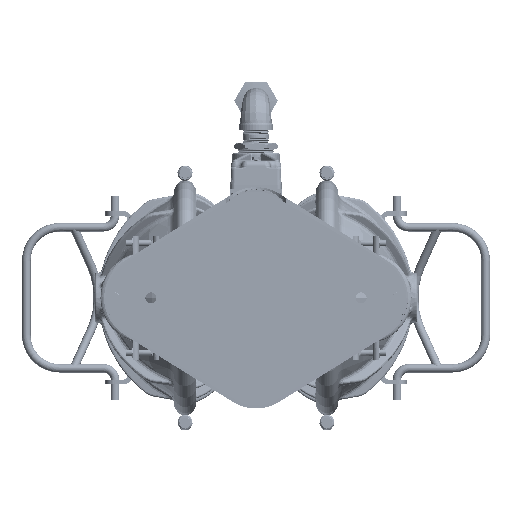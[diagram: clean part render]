
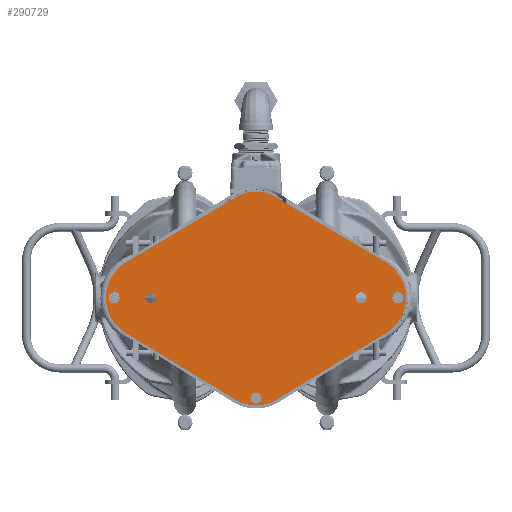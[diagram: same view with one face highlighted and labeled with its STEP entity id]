
A CAD part, front view. The second image highlights one B-rep face of the part: STEP entity #290729.
In plain terms, the highlighted planar face has unit normal (0, -1, 0).
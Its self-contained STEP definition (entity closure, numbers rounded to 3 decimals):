
#99927=CARTESIAN_POINT('',(5.595,-13.027,0.));
#99928=DIRECTION('',(0.,1.,0.));
#99929=DIRECTION('',(0.51,0.,0.86));
#99930=AXIS2_PLACEMENT_3D('',#99927,#99928,#99929);
#99932=DIRECTION('',(0.856,0.,0.518));
#99933=VECTOR('',#99932,6.615);
#99934=CARTESIAN_POINT('',(1.035,-13.027,
-5.242));
#99935=LINE('',#99934,#99933);
#99936=CARTESIAN_POINT('',(0.,-13.027,-3.531));
#99937=DIRECTION('',(0.,1.,0.));
#99938=DIRECTION('',(0.518,0.,-0.856));
#99939=AXIS2_PLACEMENT_3D('',#99936,#99937,#99938);
#99941=DIRECTION('',(0.856,0.,-0.518));
#99942=VECTOR('',#99941,6.615);
#99943=CARTESIAN_POINT('',(-6.695,-13.027,
-1.818));
#99944=LINE('',#99943,#99942);
#99945=CARTESIAN_POINT('',(-5.595,-13.027,0.));
#99946=DIRECTION('',(0.,1.,0.));
#99947=DIRECTION('',(-0.518,0.,-0.856));
#99948=AXIS2_PLACEMENT_3D('',#99945,#99946,#99947);
#99950=DIRECTION('',(-0.86,0.,-0.51));
#99951=VECTOR('',#99950,6.614);
#99952=CARTESIAN_POINT('',(-0.987,-13.027,
5.198));
#99953=LINE('',#99952,#99951);
#99954=CARTESIAN_POINT('',(0.,-13.027,3.531));
#99955=DIRECTION('',(0.,1.,0.));
#99956=DIRECTION('',(-0.51,0.,0.86));
#99957=AXIS2_PLACEMENT_3D('',#99954,#99955,#99956);
#99959=DIRECTION('',(-0.86,0.,0.51));
#99960=VECTOR('',#99959,6.614);
#99961=CARTESIAN_POINT('',(6.678,-13.027,
1.828));
#99962=LINE('',#99961,#99960);
#99963=CARTESIAN_POINT('',(-7.295,-13.027,0.));
#99964=DIRECTION('',(0.,1.,0.));
#99965=DIRECTION('',(1.,0.,0.));
#99966=AXIS2_PLACEMENT_3D('',#99963,#99964,#99965);
#99968=CARTESIAN_POINT('',(-7.295,-13.027,0.));
#99969=DIRECTION('',(0.,1.,0.));
#99970=DIRECTION('',(-1.,0.,0.));
#99971=AXIS2_PLACEMENT_3D('',#99968,#99969,#99970);
#99973=CARTESIAN_POINT('',(7.295,-13.027,0.));
#99974=DIRECTION('',(0.,1.,0.));
#99975=DIRECTION('',(1.,0.,0.));
#99976=AXIS2_PLACEMENT_3D('',#99973,#99974,#99975);
#99978=CARTESIAN_POINT('',(7.295,-13.027,0.));
#99979=DIRECTION('',(0.,1.,0.));
#99980=DIRECTION('',(-1.,0.,0.));
#99981=AXIS2_PLACEMENT_3D('',#99978,#99979,#99980);
#99983=CARTESIAN_POINT('',(0.,-13.027,-5.157));
#99984=DIRECTION('',(0.,1.,0.));
#99985=DIRECTION('',(1.,0.,0.));
#99986=AXIS2_PLACEMENT_3D('',#99983,#99984,#99985);
#99988=CARTESIAN_POINT('',(0.,-13.027,-5.157));
#99989=DIRECTION('',(0.,1.,0.));
#99990=DIRECTION('',(-1.,0.,0.));
#99991=AXIS2_PLACEMENT_3D('',#99988,#99989,#99990);
#99993=CARTESIAN_POINT('',(-5.405,-13.027,0.));
#99994=DIRECTION('',(0.,-1.,0.));
#99995=DIRECTION('',(1.,0.,0.));
#99996=AXIS2_PLACEMENT_3D('',#99993,#99994,#99995);
#99998=CARTESIAN_POINT('',(-5.405,-13.027,0.));
#99999=DIRECTION('',(0.,-1.,0.));
#100000=DIRECTION('',(-1.,0.,0.));
#100001=AXIS2_PLACEMENT_3D('',#99998,#99999,#100000);
#100003=CARTESIAN_POINT('',(5.405,-13.027,0.));
#100004=DIRECTION('',(0.,-1.,0.));
#100005=DIRECTION('',(1.,0.,0.));
#100006=AXIS2_PLACEMENT_3D('',#100003,#100004,#100005);
#100008=CARTESIAN_POINT('',(5.405,-13.027,0.));
#100009=DIRECTION('',(0.,-1.,0.));
#100010=DIRECTION('',(-1.,0.,0.));
#100011=AXIS2_PLACEMENT_3D('',#100008,#100009,#100010);
#216922=CARTESIAN_POINT('',(6.678,-13.027,
1.828));
#216924=VERTEX_POINT('',#216922);
#216926=CARTESIAN_POINT('',(6.695,-13.027,
-1.818));
#216928=VERTEX_POINT('',#216926);
#216930=CARTESIAN_POINT('',(-6.695,-13.027,
-1.818));
#216932=VERTEX_POINT('',#216930);
#216934=CARTESIAN_POINT('',(-6.678,-13.027,
1.828));
#216936=VERTEX_POINT('',#216934);
#216938=CARTESIAN_POINT('',(-0.987,-13.027,
5.198));
#216940=VERTEX_POINT('',#216938);
#216942=CARTESIAN_POINT('',(0.987,-13.027,
5.198));
#216944=VERTEX_POINT('',#216942);
#216946=CARTESIAN_POINT('',(1.035,-13.027,
-5.242));
#216948=VERTEX_POINT('',#216946);
#216951=CARTESIAN_POINT('',(-1.035,-13.027,
-5.242));
#216953=VERTEX_POINT('',#216951);
#218559=CARTESIAN_POINT('',(-7.01,-13.027,0.));
#218560=CARTESIAN_POINT('',(-7.58,-13.027,0.));
#218561=VERTEX_POINT('',#218559);
#218562=VERTEX_POINT('',#218560);
#218567=CARTESIAN_POINT('',(7.58,-13.027,0.));
#218568=CARTESIAN_POINT('',(7.01,-13.027,0.));
#218569=VERTEX_POINT('',#218567);
#218570=VERTEX_POINT('',#218568);
#218575=CARTESIAN_POINT('',(0.285,-13.027,-5.157));
#218576=CARTESIAN_POINT('',(-0.285,-13.027,-5.157));
#218577=VERTEX_POINT('',#218575);
#218578=VERTEX_POINT('',#218576);
#218583=CARTESIAN_POINT('',(-5.124,-13.027,0.));
#218584=CARTESIAN_POINT('',(-5.686,-13.027,0.));
#218585=VERTEX_POINT('',#218583);
#218586=VERTEX_POINT('',#218584);
#218591=CARTESIAN_POINT('',(5.686,-13.027,0.));
#218592=CARTESIAN_POINT('',(5.124,-13.027,0.));
#218593=VERTEX_POINT('',#218591);
#218594=VERTEX_POINT('',#218592);
#290678=CARTESIAN_POINT('',(0.,-13.027,0.));
#290679=DIRECTION('',(0.,1.,0.));
#290680=DIRECTION('',(1.,0.,0.));
#290681=AXIS2_PLACEMENT_3D('',#290678,#290679,#290680);
#290682=PLANE('',#290681);
#290683=ORIENTED_EDGE('',*,*,#289360,.T.);
#290685=ORIENTED_EDGE('',*,*,#290684,.F.);
#290687=ORIENTED_EDGE('',*,*,#290686,.T.);
#290689=ORIENTED_EDGE('',*,*,#290688,.F.);
#290691=ORIENTED_EDGE('',*,*,#290690,.T.);
#290693=ORIENTED_EDGE('',*,*,#290692,.F.);
#290695=ORIENTED_EDGE('',*,*,#290694,.T.);
#290696=ORIENTED_EDGE('',*,*,#290635,.F.);
#290697=EDGE_LOOP('',(#290683,#290685,#290687,#290689,#290691,#290693,#290695,
#290696));
#290698=FACE_OUTER_BOUND('',#290697,.F.);
#290700=ORIENTED_EDGE('',*,*,#290699,.F.);
#290702=ORIENTED_EDGE('',*,*,#290701,.F.);
#290703=EDGE_LOOP('',(#290700,#290702));
#290704=FACE_BOUND('',#290703,.F.);
#290706=ORIENTED_EDGE('',*,*,#290705,.F.);
#290708=ORIENTED_EDGE('',*,*,#290707,.F.);
#290709=EDGE_LOOP('',(#290706,#290708));
#290710=FACE_BOUND('',#290709,.F.);
#290712=ORIENTED_EDGE('',*,*,#290711,.F.);
#290714=ORIENTED_EDGE('',*,*,#290713,.F.);
#290715=EDGE_LOOP('',(#290712,#290714));
#290716=FACE_BOUND('',#290715,.F.);
#290718=ORIENTED_EDGE('',*,*,#290717,.T.);
#290720=ORIENTED_EDGE('',*,*,#290719,.T.);
#290721=EDGE_LOOP('',(#290718,#290720));
#290722=FACE_BOUND('',#290721,.F.);
#290724=ORIENTED_EDGE('',*,*,#290723,.T.);
#290726=ORIENTED_EDGE('',*,*,#290725,.T.);
#290727=EDGE_LOOP('',(#290724,#290726));
#290728=FACE_BOUND('',#290727,.F.);
#290729=ADVANCED_FACE('',(#290698,#290704,#290710,#290716,#290722,#290728),
#290682,.F.);
#99931=CIRCLE('',#99930,2.125);
#99940=CIRCLE('',#99939,2.);
#99949=CIRCLE('',#99948,2.125);
#99958=CIRCLE('',#99957,1.938);
#99967=CIRCLE('',#99966,0.285);
#99972=CIRCLE('',#99971,0.285);
#99977=CIRCLE('',#99976,0.285);
#99982=CIRCLE('',#99981,0.285);
#99987=CIRCLE('',#99986,0.285);
#99992=CIRCLE('',#99991,0.285);
#99997=CIRCLE('',#99996,0.281);
#100002=CIRCLE('',#100001,0.281);
#100007=CIRCLE('',#100006,0.281);
#100012=CIRCLE('',#100011,0.281);
#289360=EDGE_CURVE('',#216924,#216928,#99931,.T.);
#290635=EDGE_CURVE('',#216924,#216944,#99962,.T.);
#290684=EDGE_CURVE('',#216948,#216928,#99935,.T.);
#290686=EDGE_CURVE('',#216948,#216953,#99940,.T.);
#290688=EDGE_CURVE('',#216932,#216953,#99944,.T.);
#290690=EDGE_CURVE('',#216932,#216936,#99949,.T.);
#290692=EDGE_CURVE('',#216940,#216936,#99953,.T.);
#290694=EDGE_CURVE('',#216940,#216944,#99958,.T.);
#290699=EDGE_CURVE('',#218561,#218562,#99967,.T.);
#290701=EDGE_CURVE('',#218562,#218561,#99972,.T.);
#290705=EDGE_CURVE('',#218569,#218570,#99977,.T.);
#290707=EDGE_CURVE('',#218570,#218569,#99982,.T.);
#290711=EDGE_CURVE('',#218577,#218578,#99987,.T.);
#290713=EDGE_CURVE('',#218578,#218577,#99992,.T.);
#290717=EDGE_CURVE('',#218585,#218586,#99997,.T.);
#290719=EDGE_CURVE('',#218586,#218585,#100002,.T.);
#290723=EDGE_CURVE('',#218593,#218594,#100007,.T.);
#290725=EDGE_CURVE('',#218594,#218593,#100012,.T.);
